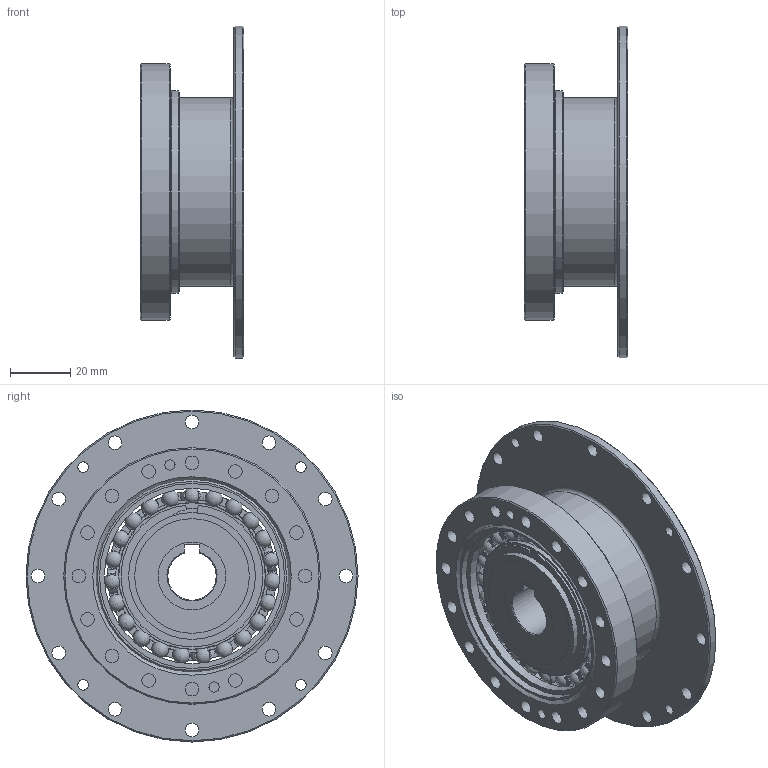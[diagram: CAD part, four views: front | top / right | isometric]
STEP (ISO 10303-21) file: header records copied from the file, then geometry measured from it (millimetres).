
FILE_DESCRIPTION(/* description */ (''),/* implementation_level */ '2;1');
FILE_NAME(/* name */ 'Getriebeset_HTG_63_FK.stp',/* time_stamp */ '2026-03-09T10:58:57+01:00',/* author */ (''),/* organization */ (''),/* preprocessor_version */ 'ST-DEVELOPER v19.4',/* originating_system */ 'SIEMENS PLM Software NX2212.9120',/* authorisation */ '');
FILE_SCHEMA (('AUTOMOTIVE_DESIGN { 1 0 10303 214 3 1 1 1 }'));
Length unit declared in the file: millimetre
Products named in the file (1): Getriebeset_HTG_63_FK
Bounding box: 34.4 x 110 x 110 mm (x, y, z)
Volume: 64898.3 mm3; surface area: 58233 mm2
Topology: 30 solids, 30 shells, 300 faces, 853 edges, 575 vertices
Faces by surface type: cylinder 98, plane 77, torus 44, cone 42, sphere 35, bspline 4
Full cylindrical faces by diameter (mm): 3.4 x2, 3.5 x4, 4.5 x28, 22.5 x1, 38 x1, 40.52 x1, 42 x1, 45 x2, 48.5 x2, 48.8 x1, 58.1 x2, 61.3 x2, 62.3 x1, 63 x1, 64 x1, 67 x1, 85 x1, 88 x1, 110 x1
Entity records: 12324 total; most frequent: CARTESIAN_POINT 5277, ORIENTED_EDGE 1344, DIRECTION 1307, EDGE_CURVE 672, AXIS2_PLACEMENT_3D 604, VERTEX_POINT 512, EDGE_LOOP 437, CIRCLE 307
